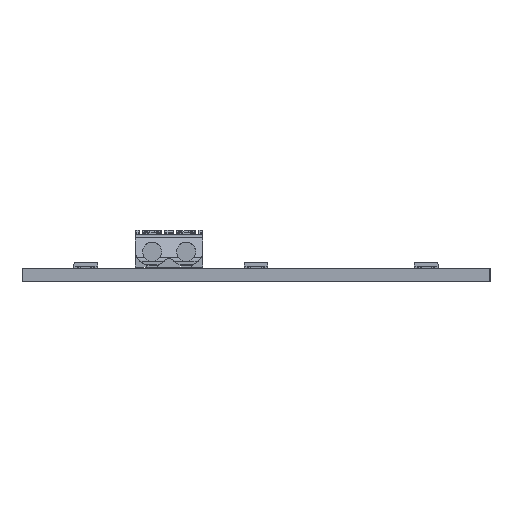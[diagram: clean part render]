
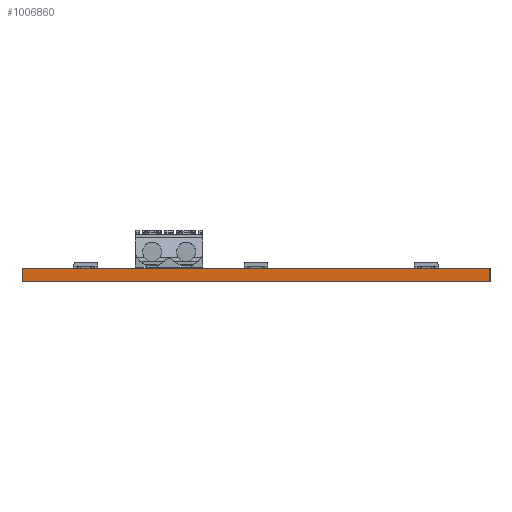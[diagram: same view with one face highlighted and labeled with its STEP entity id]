
A CAD part, left-side view. The second image highlights one B-rep face of the part: STEP entity #1006860.
In plain terms, the highlighted planar face has unit normal (-1, 0, 0).
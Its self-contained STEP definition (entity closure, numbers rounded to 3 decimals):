
#988290=CARTESIAN_POINT('',(0.,55.,0.));
#988300=DIRECTION('',(0.,-1.,0.));
#988310=VECTOR('',#988300,0.039);
#988320=LINE('',#988290,#988310);
#988330=CARTESIAN_POINT('',(0.,55.,0.));
#988340=VERTEX_POINT('',#988330);
#988350=CARTESIAN_POINT('',(0.,0.,0.));
#988360=VERTEX_POINT('',#988350);
#988370=EDGE_CURVE('',#988340,#988360,#988320,.T.);
#997200=CARTESIAN_POINT('',(0.,0.,-1.6));
#997210=VERTEX_POINT('',#997200);
#997380=CARTESIAN_POINT('',(0.,55.,-1.6));
#997390=VERTEX_POINT('',#997380);
#997420=CARTESIAN_POINT('',(0.,55.,-1.6));
#997430=DIRECTION('',(0.,-1.,0.));
#997440=VECTOR('',#997430,0.039);
#997450=LINE('',#997420,#997440);
#997460=EDGE_CURVE('',#997390,#997210,#997450,.T.);
#1006110=CARTESIAN_POINT('',(0.,0.,0.));
#1006120=DIRECTION('',(0.,0.,-1.));
#1006130=VECTOR('',#1006120,1.);
#1006140=LINE('',#1006110,#1006130);
#1006150=EDGE_CURVE('',#988360,#997210,#1006140,.T.);
#1006570=CARTESIAN_POINT('',(0.,55.,0.));
#1006580=DIRECTION('',(0.,0.,-1.));
#1006590=VECTOR('',#1006580,1.);
#1006600=LINE('',#1006570,#1006590);
#1006610=EDGE_CURVE('',#988340,#997390,#1006600,.T.);
#1006750=CARTESIAN_POINT('',(0.,0.,0.));
#1006760=DIRECTION('',(1.,0.,0.));
#1006770=DIRECTION('',(0.,-1.,0.));
#1006780=AXIS2_PLACEMENT_3D('',#1006750,#1006760,#1006770);
#1006790=PLANE('',#1006780);
#1006800=ORIENTED_EDGE('',*,*,#988370,.F.);
#1006810=ORIENTED_EDGE('',*,*,#1006150,.F.);
#1006820=ORIENTED_EDGE('',*,*,#997460,.T.);
#1006830=ORIENTED_EDGE('',*,*,#1006610,.T.);
#1006840=EDGE_LOOP('',(#1006830,#1006820,#1006810,#1006800));
#1006850=FACE_OUTER_BOUND('',#1006840,.T.);
#1006860=ADVANCED_FACE('',(#1006850),#1006790,.F.);
